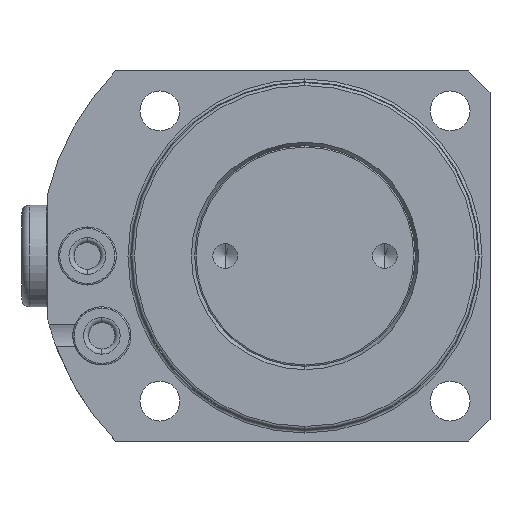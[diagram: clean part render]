
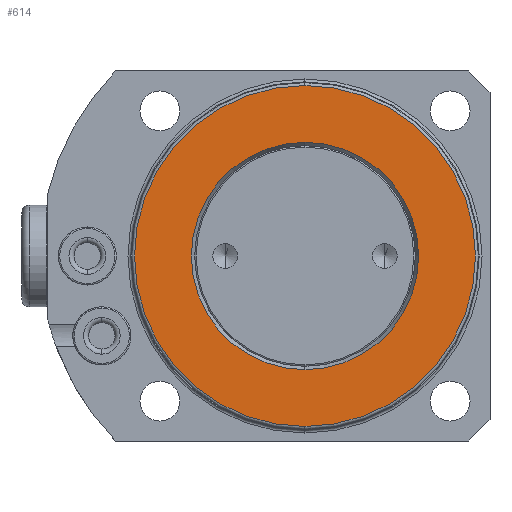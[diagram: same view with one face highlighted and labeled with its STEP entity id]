
A CAD part, front view. The second image highlights one B-rep face of the part: STEP entity #614.
In plain terms, the highlighted planar face has unit normal (0, -1, 0).
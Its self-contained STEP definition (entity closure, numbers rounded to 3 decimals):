
#275=PLANE('',#3854);
#343=FACE_BOUND('',#1092,.T.);
#344=FACE_BOUND('',#1093,.T.);
#614=ADVANCED_FACE('',(#343,#344),#275,.F.);
#1092=EDGE_LOOP('',(#1877,#1878));
#1093=EDGE_LOOP('',(#1879,#1880));
#1299=CIRCLE('',#3733,23.5);
#1303=CIRCLE('',#3738,15.662);
#1375=CIRCLE('',#3851,15.662);
#1376=CIRCLE('',#3853,23.5);
#1877=ORIENTED_EDGE('',*,*,#2943,.F.);
#1878=ORIENTED_EDGE('',*,*,#3071,.F.);
#1879=ORIENTED_EDGE('',*,*,#2948,.T.);
#1880=ORIENTED_EDGE('',*,*,#3070,.T.);
#2633=VERTEX_POINT('',#5695);
#2634=VERTEX_POINT('',#5696);
#2637=VERTEX_POINT('',#5704);
#2638=VERTEX_POINT('',#5706);
#2943=EDGE_CURVE('',#2633,#2634,#1299,.T.);
#2948=EDGE_CURVE('',#2638,#2637,#1303,.T.);
#3070=EDGE_CURVE('',#2637,#2638,#1375,.T.);
#3071=EDGE_CURVE('',#2634,#2633,#1376,.T.);
#3733=AXIS2_PLACEMENT_3D('',#5694,#4349,#4350);
#3738=AXIS2_PLACEMENT_3D('',#5705,#4360,#4361);
#3851=AXIS2_PLACEMENT_3D('',#6059,#4619,#4620);
#3853=AXIS2_PLACEMENT_3D('',#6061,#4623,#4624);
#3854=AXIS2_PLACEMENT_3D('',#6062,#4625,#4626);
#4349=DIRECTION('',(0.,1.,0.));
#4350=DIRECTION('',(0.,0.,1.));
#4360=DIRECTION('',(0.,1.,0.));
#4361=DIRECTION('',(0.,0.,1.));
#4619=DIRECTION('',(0.,1.,0.));
#4620=DIRECTION('',(0.,0.,1.));
#4623=DIRECTION('',(0.,1.,0.));
#4624=DIRECTION('',(0.,0.,1.));
#4625=DIRECTION('',(0.,1.,0.));
#4626=DIRECTION('',(0.,0.,-1.));
#5694=CARTESIAN_POINT('',(0.,0.255,0.));
#5695=CARTESIAN_POINT('',(0.,0.255,23.5));
#5696=CARTESIAN_POINT('',(0.,0.255,-23.5));
#5704=CARTESIAN_POINT('',(0.,0.255,15.662));
#5705=CARTESIAN_POINT('',(0.,0.255,0.));
#5706=CARTESIAN_POINT('',(0.,0.255,-15.662));
#6059=CARTESIAN_POINT('',(0.,0.255,0.));
#6061=CARTESIAN_POINT('',(0.,0.255,0.));
#6062=CARTESIAN_POINT('',(23.5,0.255,0.));
